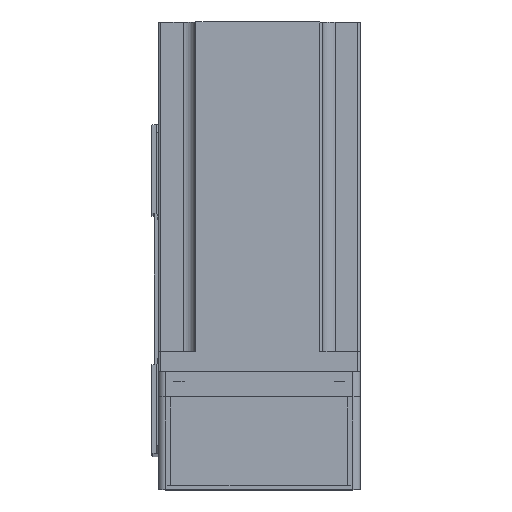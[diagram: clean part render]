
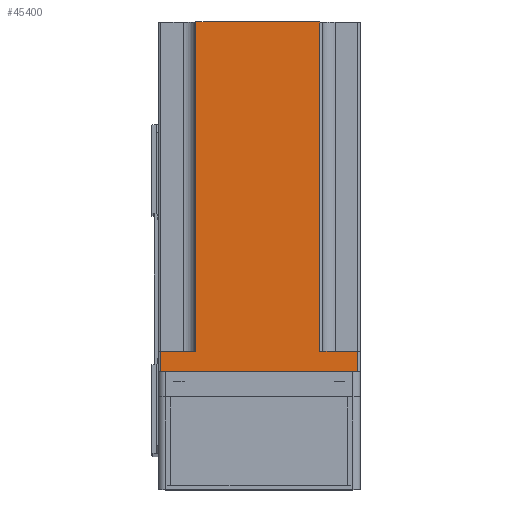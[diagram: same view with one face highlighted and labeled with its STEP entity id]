
A CAD part, top view. The second image highlights one B-rep face of the part: STEP entity #45400.
In plain terms, the highlighted planar face has unit normal (0, 0, 1) as drawn and (-1, 0, 0) by its records, which use the part's own axes.
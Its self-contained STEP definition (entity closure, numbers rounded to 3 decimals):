
#455 = AXIS2_PLACEMENT_3D ( 'NONE', #4740, #30239, #8397 ) ;
#954 = DIRECTION ( 'NONE',  ( 0., -1., 0. ) ) ;
#2926 = DIRECTION ( 'NONE',  ( 0., 0., 1. ) ) ;
#3810 = DIRECTION ( 'NONE',  ( 0., 0., 1. ) ) ;
#4740 = CARTESIAN_POINT ( 'NONE',  ( -40., -40., 138.3 ) ) ;
#5066 = ORIENTED_EDGE ( 'NONE', *, *, #7841, .T. ) ;
#5082 = DIRECTION ( 'NONE',  ( 0., 0., -1. ) ) ;
#6758 = LINE ( 'NONE', #43517, #34672 ) ;
#7027 = EDGE_CURVE ( 'NONE', #17405, #8300, #23424, .T. ) ;
#7093 = CARTESIAN_POINT ( 'NONE',  ( -40., -39., 138.3 ) ) ;
#7828 = VERTEX_POINT ( 'NONE', #15939 ) ;
#7841 = EDGE_CURVE ( 'NONE', #7828, #26538, #30512, .T. ) ;
#8242 = PLANE ( 'NONE',  #455 ) ;
#8300 = VERTEX_POINT ( 'NONE', #15278 ) ;
#8397 = DIRECTION ( 'NONE',  ( 0., 0., -1. ) ) ;
#10050 = LINE ( 'NONE', #37269, #19729 ) ;
#10760 = CARTESIAN_POINT ( 'NONE',  ( -40., 39., 0. ) ) ;
#11766 = DIRECTION ( 'NONE',  ( 0., -1., 0. ) ) ;
#12306 = ORIENTED_EDGE ( 'NONE', *, *, #35846, .F. ) ;
#12913 = CARTESIAN_POINT ( 'NONE',  ( -40., -24., 138.3 ) ) ;
#13572 = LINE ( 'NONE', #19289, #41475 ) ;
#13596 = EDGE_CURVE ( 'NONE', #36249, #7828, #37151, .T. ) ;
#15136 = VERTEX_POINT ( 'NONE', #19472 ) ;
#15278 = CARTESIAN_POINT ( 'NONE',  ( -40., -39., 8. ) ) ;
#15939 = CARTESIAN_POINT ( 'NONE',  ( -40., 39., 8. ) ) ;
#16870 = EDGE_CURVE ( 'NONE', #36249, #25773, #30999, .T. ) ;
#16897 = VERTEX_POINT ( 'NONE', #12913 ) ;
#17029 = CARTESIAN_POINT ( 'NONE',  ( -40., 40., 8. ) ) ;
#17405 = VERTEX_POINT ( 'NONE', #19690 ) ;
#19289 = CARTESIAN_POINT ( 'NONE',  ( -40., -40., 138.3 ) ) ;
#19472 = CARTESIAN_POINT ( 'NONE',  ( -40., -24., 8. ) ) ;
#19677 = VECTOR ( 'NONE', #5082, 1000. ) ;
#19690 = CARTESIAN_POINT ( 'NONE',  ( -40., -39., 0. ) ) ;
#19729 = VECTOR ( 'NONE', #11766, 1000. ) ;
#19905 = DIRECTION ( 'NONE',  ( 0., 0., 1. ) ) ;
#20069 = CARTESIAN_POINT ( 'NONE',  ( -40., 25., 8. ) ) ;
#20680 = DIRECTION ( 'NONE',  ( 0., 1., 0. ) ) ;
#23424 = LINE ( 'NONE', #7093, #42826 ) ;
#24140 = CARTESIAN_POINT ( 'NONE',  ( -40., -40., 8. ) ) ;
#25773 = VERTEX_POINT ( 'NONE', #38374 ) ;
#26538 = VERTEX_POINT ( 'NONE', #10760 ) ;
#26914 = CARTESIAN_POINT ( 'NONE',  ( -40., 39., 138.3 ) ) ;
#27121 = LINE ( 'NONE', #24140, #36839 ) ;
#27348 = FACE_OUTER_BOUND ( 'NONE', #45711, .T. ) ;
#28116 = ORIENTED_EDGE ( 'NONE', *, *, #7027, .T. ) ;
#29737 = VECTOR ( 'NONE', #20680, 1000. ) ;
#29852 = VECTOR ( 'NONE', #19905, 1000. ) ;
#30239 = DIRECTION ( 'NONE',  ( 1., 0., 0. ) ) ;
#30512 = LINE ( 'NONE', #26914, #19677 ) ;
#30999 = LINE ( 'NONE', #20069, #29852 ) ;
#32823 = ORIENTED_EDGE ( 'NONE', *, *, #46996, .T. ) ;
#34368 = ORIENTED_EDGE ( 'NONE', *, *, #42328, .F. ) ;
#34672 = VECTOR ( 'NONE', #3810, 1000. ) ;
#34982 = EDGE_CURVE ( 'NONE', #15136, #16897, #6758, .T. ) ;
#35846 = EDGE_CURVE ( 'NONE', #15136, #8300, #27121, .T. ) ;
#36249 = VERTEX_POINT ( 'NONE', #37604 ) ;
#36839 = VECTOR ( 'NONE', #45972, 1000. ) ;
#37105 = ORIENTED_EDGE ( 'NONE', *, *, #16870, .F. ) ;
#37151 = LINE ( 'NONE', #17029, #29737 ) ;
#37269 = CARTESIAN_POINT ( 'NONE',  ( -40., -40., 0. ) ) ;
#37604 = CARTESIAN_POINT ( 'NONE',  ( -40., 25., 8. ) ) ;
#38374 = CARTESIAN_POINT ( 'NONE',  ( -40., 25., 138.3 ) ) ;
#39588 = ORIENTED_EDGE ( 'NONE', *, *, #13596, .T. ) ;
#41292 = ORIENTED_EDGE ( 'NONE', *, *, #34982, .T. ) ;
#41475 = VECTOR ( 'NONE', #954, 1000. ) ;
#42328 = EDGE_CURVE ( 'NONE', #25773, #16897, #13572, .T. ) ;
#42826 = VECTOR ( 'NONE', #2926, 1000. ) ;
#43517 = CARTESIAN_POINT ( 'NONE',  ( -40., -24., 138.3 ) ) ;
#45400 = ADVANCED_FACE ( 'NONE', ( #27348 ), #8242, .F. ) ;
#45711 = EDGE_LOOP ( 'NONE', ( #12306, #41292, #34368, #37105, #39588, #5066, #32823, #28116 ) ) ;
#45972 = DIRECTION ( 'NONE',  ( 0., -1., 0. ) ) ;
#46996 = EDGE_CURVE ( 'NONE', #26538, #17405, #10050, .T. ) ;
